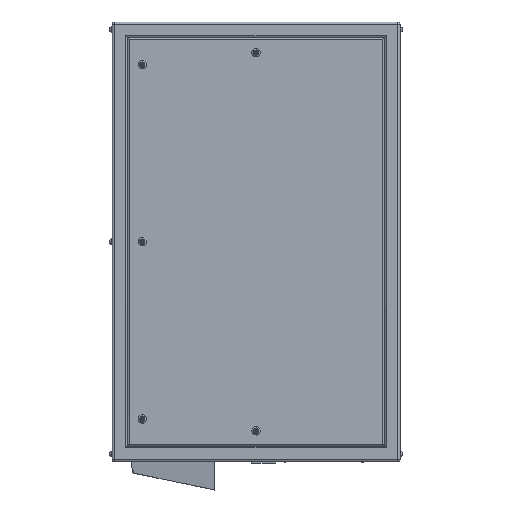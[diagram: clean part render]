
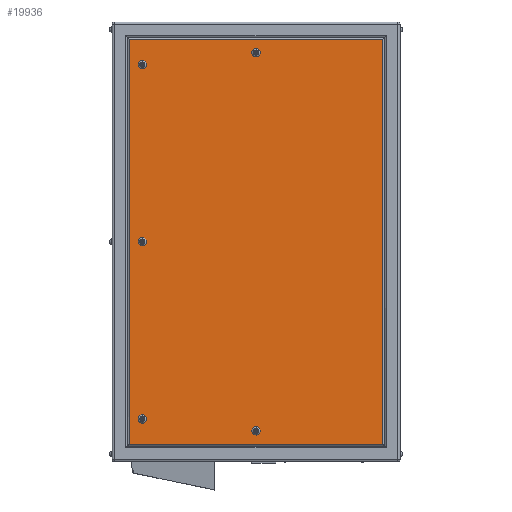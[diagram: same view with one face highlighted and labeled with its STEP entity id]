
A CAD part, left-side view. The second image highlights one B-rep face of the part: STEP entity #19936.
In plain terms, the highlighted planar face has unit normal (-1, 0, 0).
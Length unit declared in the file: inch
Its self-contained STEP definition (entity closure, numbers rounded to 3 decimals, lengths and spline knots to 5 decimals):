
#226 = CIRCLE ( 'NONE', #12770, 0.55 ) ;
#281 = DIRECTION ( 'NONE',  ( 0., 0., -1. ) ) ;
#566 = DIRECTION ( 'NONE',  ( 0., 0., -1. ) ) ;
#821 = CARTESIAN_POINT ( 'NONE',  ( -12., 0., 25.5 ) ) ;
#851 = AXIS2_PLACEMENT_3D ( 'NONE', #22226, #20886, #22344 ) ;
#990 = CARTESIAN_POINT ( 'NONE',  ( -12., 15., -0.55 ) ) ;
#1026 = ORIENTED_EDGE ( 'NONE', *, *, #22261, .T. ) ;
#1036 = AXIS2_PLACEMENT_3D ( 'NONE', #13392, #20866, #8381 ) ;
#1101 = ORIENTED_EDGE ( 'NONE', *, *, #16983, .T. ) ;
#1145 = AXIS2_PLACEMENT_3D ( 'NONE', #22668, #11854, #15500 ) ;
#1276 = AXIS2_PLACEMENT_3D ( 'NONE', #23376, #14577, #7691 ) ;
#1482 = EDGE_LOOP ( 'NONE', ( #15072, #1101 ) ) ;
#2113 = CARTESIAN_POINT ( 'NONE',  ( -12., 15., 0.55 ) ) ;
#2185 = ORIENTED_EDGE ( 'NONE', *, *, #12254, .T. ) ;
#2264 = EDGE_CURVE ( 'NONE', #17108, #5291, #5036, .T. ) ;
#2338 = LINE ( 'NONE', #9621, #13028 ) ;
#2769 = VERTEX_POINT ( 'NONE', #3357 ) ;
#2942 = DIRECTION ( 'NONE',  ( 1., 0., 0. ) ) ;
#2998 = CIRCLE ( 'NONE', #1036, 0.55 ) ;
#3357 = CARTESIAN_POINT ( 'NONE',  ( -12., 15., -23.925 ) ) ;
#3424 = ORIENTED_EDGE ( 'NONE', *, *, #3430, .T. ) ;
#3430 = EDGE_CURVE ( 'NONE', #17574, #11074, #20941, .T. ) ;
#3551 = VERTEX_POINT ( 'NONE', #7648 ) ;
#3699 = FACE_BOUND ( 'NONE', #10979, .T. ) ;
#4073 = VERTEX_POINT ( 'NONE', #18800 ) ;
#4195 = CARTESIAN_POINT ( 'NONE',  ( -12., 0., 24.4 ) ) ;
#4213 = CARTESIAN_POINT ( 'NONE',  ( -12., 15., 23.375 ) ) ;
#4502 = EDGE_CURVE ( 'NONE', #10773, #4549, #226, .T. ) ;
#4549 = VERTEX_POINT ( 'NONE', #8035 ) ;
#4958 = VERTEX_POINT ( 'NONE', #16694 ) ;
#5036 = CIRCLE ( 'NONE', #851, 0.55 ) ;
#5154 = AXIS2_PLACEMENT_3D ( 'NONE', #16548, #19922, #281 ) ;
#5271 = DIRECTION ( 'NONE',  ( 0., 0., 1. ) ) ;
#5273 = VECTOR ( 'NONE', #5271, 39.37008 ) ;
#5291 = VERTEX_POINT ( 'NONE', #821 ) ;
#5381 = CARTESIAN_POINT ( 'NONE',  ( -12., 15., 23.925 ) ) ;
#5390 = LINE ( 'NONE', #21725, #5273 ) ;
#5830 = ORIENTED_EDGE ( 'NONE', *, *, #10468, .T. ) ;
#5913 = EDGE_CURVE ( 'NONE', #3551, #4073, #22874, .T. ) ;
#6159 = CARTESIAN_POINT ( 'NONE',  ( -12., 0., -24.95 ) ) ;
#6172 = AXIS2_PLACEMENT_3D ( 'NONE', #4213, #7674, #9821 ) ;
#6200 = ORIENTED_EDGE ( 'NONE', *, *, #13140, .T. ) ;
#6698 = CARTESIAN_POINT ( 'NONE',  ( -12., 19., 26.74 ) ) ;
#6721 = EDGE_CURVE ( 'NONE', #14922, #2769, #18286, .T. ) ;
#6998 = CARTESIAN_POINT ( 'NONE',  ( -12., 0., -25.5 ) ) ;
#7040 = EDGE_CURVE ( 'NONE', #11074, #17574, #17896, .T. ) ;
#7648 = CARTESIAN_POINT ( 'NONE',  ( -12., -16.74, 26.74 ) ) ;
#7653 = EDGE_LOOP ( 'NONE', ( #2185, #21641 ) ) ;
#7674 = DIRECTION ( 'NONE',  ( 1., 0., 0. ) ) ;
#7691 = DIRECTION ( 'NONE',  ( 0., 0., -1. ) ) ;
#8035 = CARTESIAN_POINT ( 'NONE',  ( -12., 0., -24.4 ) ) ;
#8185 = EDGE_LOOP ( 'NONE', ( #18221, #22158 ) ) ;
#8381 = DIRECTION ( 'NONE',  ( 0., 0., -1. ) ) ;
#9621 = CARTESIAN_POINT ( 'NONE',  ( -12., 16.74, -29. ) ) ;
#9821 = DIRECTION ( 'NONE',  ( 0., 0., -1. ) ) ;
#9834 = DIRECTION ( 'NONE',  ( 0., 0., 1. ) ) ;
#9946 = DIRECTION ( 'NONE',  ( 1., 0., 0. ) ) ;
#9968 = CARTESIAN_POINT ( 'NONE',  ( -12., -16.74, -26.74 ) ) ;
#10211 = DIRECTION ( 'NONE',  ( 0., 0., 1. ) ) ;
#10250 = EDGE_CURVE ( 'NONE', #19451, #19244, #2998, .T. ) ;
#10468 = EDGE_CURVE ( 'NONE', #4958, #18913, #13931, .T. ) ;
#10773 = VERTEX_POINT ( 'NONE', #6998 ) ;
#10821 = AXIS2_PLACEMENT_3D ( 'NONE', #17946, #13017, #10993 ) ;
#10975 = FACE_BOUND ( 'NONE', #14516, .T. ) ;
#10979 = EDGE_LOOP ( 'NONE', ( #22868, #1026 ) ) ;
#10993 = DIRECTION ( 'NONE',  ( 0., 0., -1. ) ) ;
#11074 = VERTEX_POINT ( 'NONE', #15852 ) ;
#11268 = EDGE_CURVE ( 'NONE', #18913, #3551, #5390, .T. ) ;
#11458 = AXIS2_PLACEMENT_3D ( 'NONE', #11578, #11909, #13347 ) ;
#11518 = CIRCLE ( 'NONE', #18633, 0.55 ) ;
#11578 = CARTESIAN_POINT ( 'NONE',  ( -12., 19., -29. ) ) ;
#11854 = DIRECTION ( 'NONE',  ( 1., 0., 0. ) ) ;
#11909 = DIRECTION ( 'NONE',  ( 1., 0., 0. ) ) ;
#12015 = CIRCLE ( 'NONE', #5154, 0.55 ) ;
#12254 = EDGE_CURVE ( 'NONE', #2769, #14922, #14451, .T. ) ;
#12770 = AXIS2_PLACEMENT_3D ( 'NONE', #15720, #9946, #9834 ) ;
#13001 = FACE_BOUND ( 'NONE', #1482, .T. ) ;
#13017 = DIRECTION ( 'NONE',  ( 1., 0., 0. ) ) ;
#13028 = VECTOR ( 'NONE', #566, 39.37008 ) ;
#13140 = EDGE_CURVE ( 'NONE', #4073, #4958, #2338, .T. ) ;
#13232 = FACE_BOUND ( 'NONE', #7653, .T. ) ;
#13282 = VECTOR ( 'NONE', #22661, 39.37008 ) ;
#13347 = DIRECTION ( 'NONE',  ( 0., 0., -1. ) ) ;
#13392 = CARTESIAN_POINT ( 'NONE',  ( -12., 15., 0. ) ) ;
#13758 = ORIENTED_EDGE ( 'NONE', *, *, #7040, .T. ) ;
#13931 = LINE ( 'NONE', #22982, #16240 ) ;
#14052 = DIRECTION ( 'NONE',  ( 0., -1., 0. ) ) ;
#14269 = EDGE_LOOP ( 'NONE', ( #5830, #21134, #18874, #6200 ) ) ;
#14451 = CIRCLE ( 'NONE', #1145, 0.55 ) ;
#14516 = EDGE_LOOP ( 'NONE', ( #13758, #3424 ) ) ;
#14523 = AXIS2_PLACEMENT_3D ( 'NONE', #18837, #16973, #22522 ) ;
#14577 = DIRECTION ( 'NONE',  ( 1., 0., 0. ) ) ;
#14922 = VERTEX_POINT ( 'NONE', #17950 ) ;
#15072 = ORIENTED_EDGE ( 'NONE', *, *, #2264, .T. ) ;
#15500 = DIRECTION ( 'NONE',  ( 0., 0., -1. ) ) ;
#15720 = CARTESIAN_POINT ( 'NONE',  ( -12., 0., -24.95 ) ) ;
#15852 = CARTESIAN_POINT ( 'NONE',  ( -12., 15., 22.825 ) ) ;
#16240 = VECTOR ( 'NONE', #14052, 39.37008 ) ;
#16411 = FACE_BOUND ( 'NONE', #8185, .T. ) ;
#16548 = CARTESIAN_POINT ( 'NONE',  ( -12., 0., 24.95 ) ) ;
#16694 = CARTESIAN_POINT ( 'NONE',  ( -12., 16.74, -26.74 ) ) ;
#16973 = DIRECTION ( 'NONE',  ( 1., 0., 0. ) ) ;
#16983 = EDGE_CURVE ( 'NONE', #5291, #17108, #12015, .T. ) ;
#17108 = VERTEX_POINT ( 'NONE', #4195 ) ;
#17574 = VERTEX_POINT ( 'NONE', #5381 ) ;
#17896 = CIRCLE ( 'NONE', #6172, 0.55 ) ;
#17946 = CARTESIAN_POINT ( 'NONE',  ( -12., 15., 23.375 ) ) ;
#17950 = CARTESIAN_POINT ( 'NONE',  ( -12., 15., -22.825 ) ) ;
#18221 = ORIENTED_EDGE ( 'NONE', *, *, #23217, .T. ) ;
#18283 = PLANE ( 'NONE',  #11458 ) ;
#18286 = CIRCLE ( 'NONE', #14523, 0.55 ) ;
#18633 = AXIS2_PLACEMENT_3D ( 'NONE', #6159, #2942, #10211 ) ;
#18800 = CARTESIAN_POINT ( 'NONE',  ( -12., 16.74, 26.74 ) ) ;
#18837 = CARTESIAN_POINT ( 'NONE',  ( -12., 15., -23.375 ) ) ;
#18874 = ORIENTED_EDGE ( 'NONE', *, *, #5913, .T. ) ;
#18913 = VERTEX_POINT ( 'NONE', #9968 ) ;
#19244 = VERTEX_POINT ( 'NONE', #990 ) ;
#19416 = CIRCLE ( 'NONE', #1276, 0.55 ) ;
#19451 = VERTEX_POINT ( 'NONE', #2113 ) ;
#19922 = DIRECTION ( 'NONE',  ( 1., 0., 0. ) ) ;
#19936 = ADVANCED_FACE ( 'NONE', ( #3699, #13001, #13232, #16411, #10975, #20125 ), #18283, .F. ) ;
#20125 = FACE_OUTER_BOUND ( 'NONE', #14269, .T. ) ;
#20866 = DIRECTION ( 'NONE',  ( 1., 0., 0. ) ) ;
#20886 = DIRECTION ( 'NONE',  ( 1., 0., 0. ) ) ;
#20941 = CIRCLE ( 'NONE', #10821, 0.55 ) ;
#21134 = ORIENTED_EDGE ( 'NONE', *, *, #11268, .T. ) ;
#21641 = ORIENTED_EDGE ( 'NONE', *, *, #6721, .T. ) ;
#21725 = CARTESIAN_POINT ( 'NONE',  ( -12., -16.74, -29. ) ) ;
#22158 = ORIENTED_EDGE ( 'NONE', *, *, #10250, .T. ) ;
#22226 = CARTESIAN_POINT ( 'NONE',  ( -12., 0., 24.95 ) ) ;
#22261 = EDGE_CURVE ( 'NONE', #4549, #10773, #11518, .T. ) ;
#22344 = DIRECTION ( 'NONE',  ( 0., 0., -1. ) ) ;
#22522 = DIRECTION ( 'NONE',  ( 0., 0., -1. ) ) ;
#22661 = DIRECTION ( 'NONE',  ( 0., 1., 0. ) ) ;
#22668 = CARTESIAN_POINT ( 'NONE',  ( -12., 15., -23.375 ) ) ;
#22868 = ORIENTED_EDGE ( 'NONE', *, *, #4502, .T. ) ;
#22874 = LINE ( 'NONE', #6698, #13282 ) ;
#22982 = CARTESIAN_POINT ( 'NONE',  ( -12., 19., -26.74 ) ) ;
#23217 = EDGE_CURVE ( 'NONE', #19244, #19451, #19416, .T. ) ;
#23376 = CARTESIAN_POINT ( 'NONE',  ( -12., 15., 0. ) ) ;
